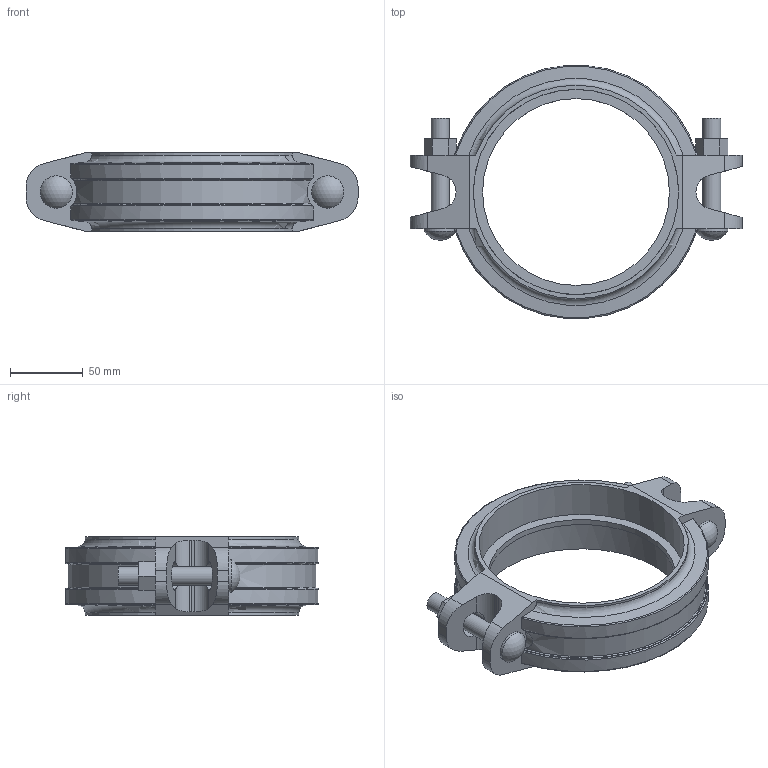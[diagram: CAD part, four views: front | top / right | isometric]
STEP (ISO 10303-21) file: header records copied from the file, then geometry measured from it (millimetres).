
FILE_DESCRIPTION(/* description */ ('VIC STYLE 005H FIRELOCK RIGID COUPLING','CAx-IF Rec.Pracs.---Representation and Presentation of Product Manufacturing Information (PMI)---4.0---2014-10-13'),/* implementation_level */ '2;1');
FILE_NAME(/* name */ 'C:\Users\Vjadhav\Desktop\CAD for Inventor\1\Coupling bolt thickness\005H\STEP\Victaulic_FP-FireLock_Coupling Rigid_Style 005H (OGS)\Victaulic_FP-FireLock_Coupling Rigid_Style 005H (OGS)_5 (125).stp',/* time_stamp */ '2022-03-28T11:25:01+06:00',/* author */ ('jheald'),/* organization */ ('Victaulic'),/* preprocessor_version */ 'ST-DEVELOPER v17.2',/* originating_system */ 'Autodesk Inventor 2019',/* authorisation */ '');
FILE_SCHEMA (('AP242_MANAGED_MODEL_BASED_3D_ENGINEERING_MIM_LF { 1 0 10303 442 1 1 4 }'));
Length unit declared in the file: inch
Products named in the file (1): 005H-05.0
Bounding box: 228.6 x 174.16 x 54.1 mm (x, y, z)
Volume: 429705.1 mm3; surface area: 92446.5 mm2
Topology: 1 solids, 1 shells, 129 faces, 381 edges, 258 vertices
Faces by surface type: plane 56, cylinder 51, torus 16, cone 4, sphere 2
Full cylindrical faces by diameter (mm): 12.7 x4, 22.225 x2, 128.6 x1, 141.3 x2
Entity records: 5164 total; most frequent: CARTESIAN_POINT 1454, ORIENTED_EDGE 762, DIRECTION 717, EDGE_CURVE 381, AXIS2_PLACEMENT_3D 269, VERTEX_POINT 258, LINE 179, VECTOR 179
